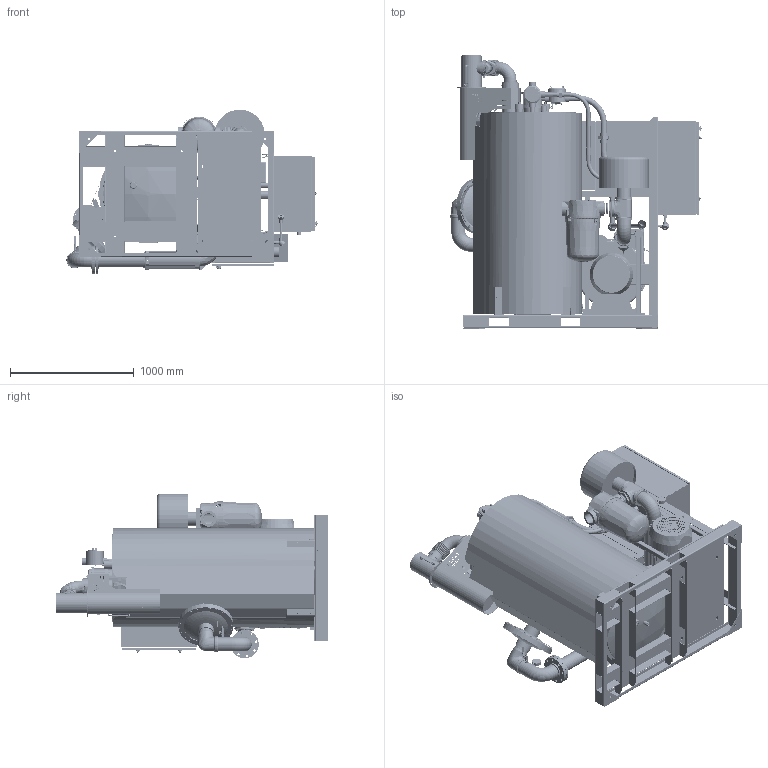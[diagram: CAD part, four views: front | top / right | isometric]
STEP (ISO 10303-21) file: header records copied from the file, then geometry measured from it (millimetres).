
FILE_DESCRIPTION (( 'STEP AP214' ), '1' );
FILE_NAME ('F600 VFD with 20 HP blowerC.STEP', '2020-05-19T19:30:16', ( '' ), ( '' ), 'SwSTEP 2.0', 'SolidWorks 2019', '' );
FILE_SCHEMA (( 'AUTOMOTIVE_DESIGN' ));
Length unit declared in the file: inch
Products named in the file (1): F600 VFD with 20 HP blowerC
Bounding box: 2031.55 x 2208.67 x 1332.73 mm (x, y, z)
Surface area: 45561623.6 mm2 (no closed solid volume)
Topology: 0 solids, 1377 shells, 8059 faces, 31088 edges, 23493 vertices
Faces by surface type: plane 3500, cylinder 2486, cone 1044, bspline 739, torus 271, sphere 19
Entity records: 576137 total; most frequent: CARTESIAN_POINT 223969, DIRECTION 49686, ORIENTED_EDGE 43604, EDGE_CURVE 31034, VERTEX_POINT 23481, AXIS2_PLACEMENT_3D 16847, LINE 15992, VECTOR 15992
